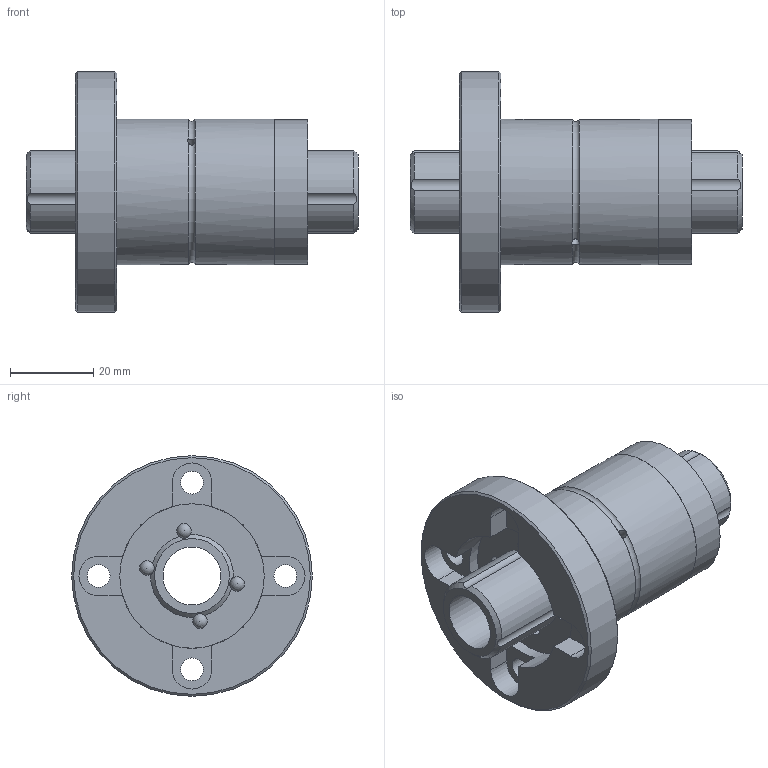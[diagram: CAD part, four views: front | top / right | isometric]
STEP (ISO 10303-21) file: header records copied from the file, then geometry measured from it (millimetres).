
FILE_DESCRIPTION(/* description */ ('Unknown'),/* implementation_level */ '2;1');
FILE_NAME(/* name */ 'TLF020-D1-L80',/* time_stamp */ '2024-12-16T13:53:32+08:00',/* author */ ('Unknown'),/* organization */ ('Unknown'),/* preprocessor_version */ 'ST-DEVELOPER v18.102',/* originating_system */ 'Solid Edge',/* authorisation */ 'Unknown');
FILE_SCHEMA (('AUTOMOTIVE_DESIGN {1 0 10303 214 3 1 1}'));
Length unit declared in the file: millimetre
Products named in the file (3): TLF020-D1-L80; TLF020-D1-xxxx; TLF020
Assembly tree (2 placements, depth 2):
  TLF020-D1-L80
    TLF020-D1-xxxx
    TLF020
Bounding box: 80 x 58 x 58 mm (x, y, z)
Volume: 56511.2 mm3; surface area: 26553.8 mm2
Topology: 2 solids, 2 shells, 77 faces, 270 edges, 182 vertices
Faces by surface type: cylinder 32, sphere 20, plane 19, cone 4, torus 2
Full cylindrical faces by diameter (mm): 2 x2, 5.5 x4, 14 x1, 34.8 x2, 35 x2, 58 x1
Entity records: 3253 total; most frequent: CARTESIAN_POINT 1322, DIRECTION 370, ORIENTED_EDGE 334, EDGE_CURVE 167, EDGE_LOOP 162, FACE_BOUND 162, AXIS2_PLACEMENT_3D 161, VERTEX_POINT 131
